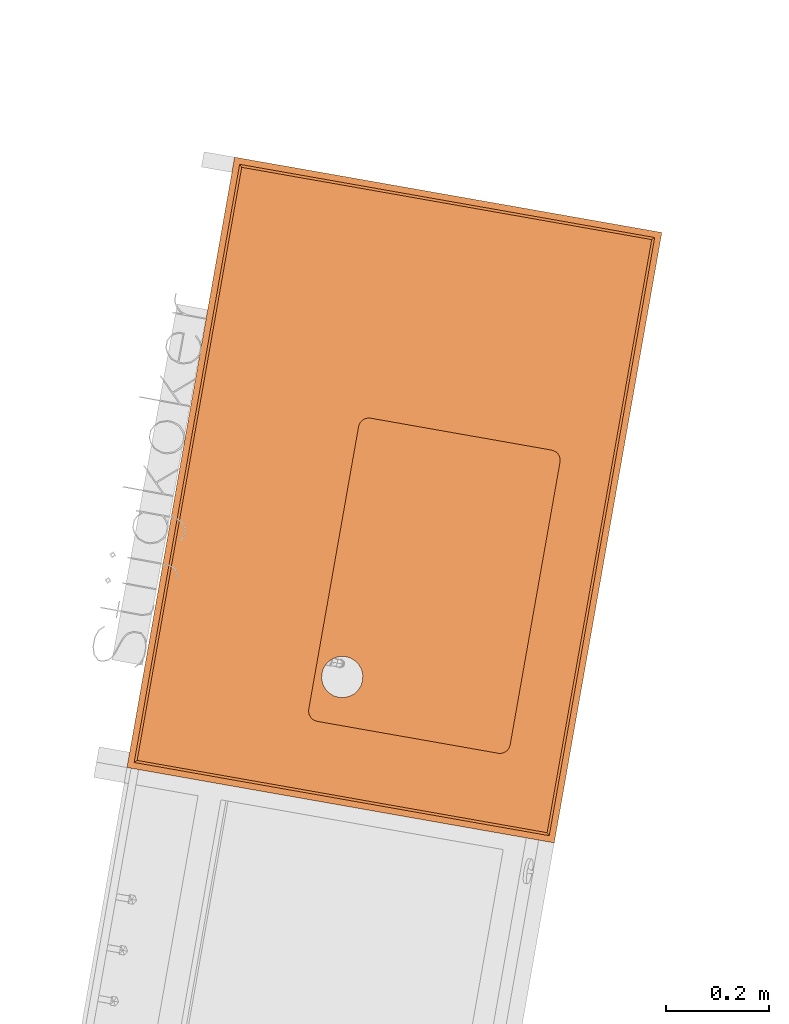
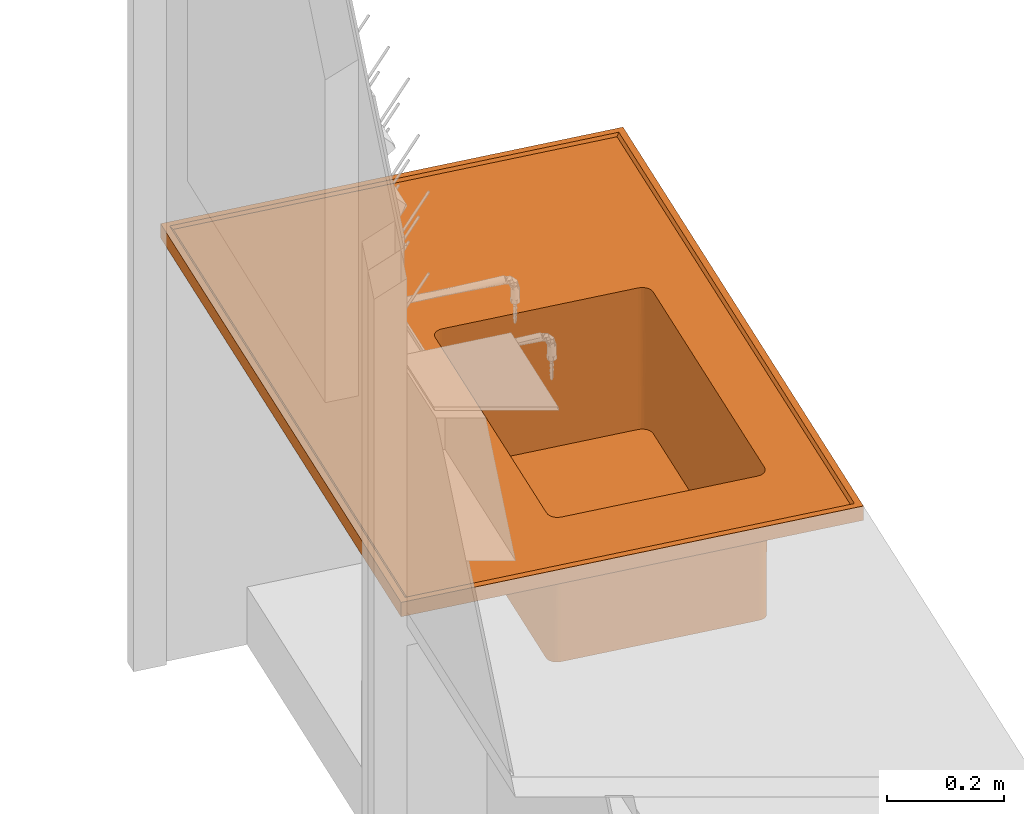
# One storey, part 16 of 43: 1 proxy.
"""IFC2X3 building model written with IfcOpenShell, lengths in metres."""

import ifcopenshell
import ifcopenshell.guid

model = None  # the IFC model being written
_history = None  # IfcOwnerHistory: only IFC2X3 demands one
_inside = {}  # id of a spatial element -> (the spatial element, [elements in it])
_under = {}  # id of a project, library or spatial element -> (it, [spatial elements below it])
_declared = {}  # id of a project -> (the project, [libraries it declares])
_typed = {}  # id of a type object -> (the type object, [elements of that type])
_made_of = {}  # id of a material, layer set ... -> (it, [elements and type objects made of it])


def new_model(schema):
    """Start an empty IFC model of exactly this schema.

    Asked for "IFC4X3", IfcOpenShell would pick the latest addendum, in which some entities
    have other attributes; the version numbers below select the first issue.
    IFC2X3 requires an IfcOwnerHistory on every rooted entity: one is made here for all.
    """
    global model, _history
    if schema == "IFC4X3":
        model = ifcopenshell.file(schema_version=(4, 3, 0, 0))
    else:
        model = ifcopenshell.file(schema=schema)
    _inside.clear()
    _under.clear()
    _declared.clear()
    _typed.clear()
    _made_of.clear()
    _history = None
    if model.schema == "IFC2X3":
        org = make("IfcOrganization", Name="unknown")
        user = make(
            "IfcPersonAndOrganization",
            ThePerson=make("IfcPerson", FamilyName="unknown"),
            TheOrganization=org,
        )
        app = make(
            "IfcApplication",
            ApplicationDeveloper=org,
            Version="unknown",
            ApplicationFullName="unknown",
            ApplicationIdentifier="unknown",
        )
        _history = make(
            "IfcOwnerHistory",
            OwningUser=user,
            OwningApplication=app,
            ChangeAction="ADDED",
            CreationDate=0,
        )
    return model


def make(cls, **values):
    """One entity of the class cls with the attributes given. An attribute that is None is left unset."""
    return model.create_entity(
        cls, **{name: value for name, value in values.items() if value is not None}
    )


def entity(cls, *values):
    """Any entity or typed value of the class cls, its attributes in the order of the schema. None: left unset."""
    e = model.create_entity(cls)
    for i, value in enumerate(values):
        if value is not None:
            e[i] = value
    return e


def rooted(cls, **values):
    """An entity with a GlobalId (a new one), such as an element, a storey or a relation."""
    return make(cls, GlobalId=ifcopenshell.guid.new(), OwnerHistory=_history, **values)


def si_unit(unit_type, name, prefix=None):
    """IfcSIUnit, for example si_unit("LENGTHUNIT", "METRE", prefix="MILLI")."""
    return make("IfcSIUnit", UnitType=unit_type, Prefix=prefix, Name=name)


def converted_unit(unit_type, name, factor, base, dimensions=None, offset=None):
    """IfcConversionBasedUnit, such as the inch: factor (a typed value) times the base unit."""
    return make(
        "IfcConversionBasedUnit"
        if offset is None
        else "IfcConversionBasedUnitWithOffset",
        ConversionOffset=offset,
        Dimensions=None
        if dimensions is None
        else entity("IfcDimensionalExponents", *dimensions),
        UnitType=unit_type,
        Name=name,
        ConversionFactor=make(
            "IfcMeasureWithUnit", ValueComponent=factor, UnitComponent=base
        ),
    )


def derived_unit(unit_type, elements):
    """IfcDerivedUnit: a product of units, each with its exponent."""
    return make(
        "IfcDerivedUnit",
        Elements=[
            make("IfcDerivedUnitElement", Unit=unit, Exponent=power)
            for unit, power in elements
        ],
        UnitType=unit_type,
    )


def assignment(units):
    """IfcUnitAssignment: the units of a project."""
    return None if units is None else make("IfcUnitAssignment", Units=units)


def point(xyz):
    """IfcCartesianPoint."""
    return None if xyz is None else make("IfcCartesianPoint", Coordinates=xyz)


def direction(xyz):
    """IfcDirection."""
    return None if xyz is None else make("IfcDirection", DirectionRatios=xyz)


def frame(location, z_axis=None, x_axis=None):
    """IfcAxis2Placement3D, a coordinate frame: its origin and axes. An axis left out is left unset."""
    return make(
        "IfcAxis2Placement3D",
        Location=point(location),
        Axis=direction(z_axis),
        RefDirection=direction(x_axis),
    )


def origin():
    """The frame at (0, 0, 0) with its axes left unset."""
    return frame((0.0, 0.0, 0.0))


def place(relative_to, where):
    """IfcLocalPlacement: puts the frame where relative to a parent placement (None: the world)."""
    return make(
        "IfcLocalPlacement", PlacementRelTo=relative_to, RelativePlacement=where
    )


def context(
    kind, dimensions, precision=None, world=None, true_north=None, identifier=None
):
    """IfcGeometricRepresentationContext, for example the 3D "Model" context."""
    return make(
        "IfcGeometricRepresentationContext",
        ContextIdentifier=identifier,
        ContextType=kind,
        CoordinateSpaceDimension=dimensions,
        Precision=precision,
        WorldCoordinateSystem=world,
        TrueNorth=true_north,
    )


def subcontext(parent, identifier, kind, view, scale=None):
    """IfcGeometricRepresentationSubContext, for example "Body" below "Model"."""
    return make(
        "IfcGeometricRepresentationSubContext",
        ContextIdentifier=identifier,
        ContextType=kind,
        ParentContext=parent,
        TargetScale=scale,
        TargetView=view,
    )


def project(units=None, contexts=None):
    """IfcProject with its units and contexts."""
    return rooted(
        "IfcProject",
        Name="project",
        RepresentationContexts=contexts,
        UnitsInContext=assignment(units),
    )


def spatial(cls, under=None, at=None, **own):
    """A site, building, storey or space (cls), placed at a placement, below another one or the project."""
    s = rooted(cls, ObjectPlacement=at, **own)
    if under is not None:
        _under.setdefault(under.id(), (under, []))[1].append(s)
    return s


def faces_of(points, faces, orient=None, outer=None):
    """IfcFace entities. A face is a list of loops; a loop is a list of indices into points, from 0.

    orient and outer hold one flag for each loop. By default every Orientation is true, the
    first loop of a face is its IfcFaceOuterBound and the others are IfcFaceBound.
    """
    made = []
    for i, loops in enumerate(faces):
        bounds = []
        for j, loop in enumerate(loops):
            is_outer = j == 0 if outer is None else outer[i][j]
            bounds.append(
                make(
                    "IfcFaceOuterBound" if is_outer else "IfcFaceBound",
                    Bound=make("IfcPolyLoop", Polygon=[points[k] for k in loop]),
                    Orientation=True if orient is None else orient[i][j],
                )
            )
        made.append(make("IfcFace", Bounds=bounds))
    return made


def faceted_brep(points, faces, orient=None, outer=None, voids=None):
    """IfcFacetedBrep: a solid bounded by flat faces; with voids (closed shells), ...WithVoids."""
    shared = [point(p) for p in points]
    hull = make("IfcClosedShell", CfsFaces=faces_of(shared, faces, orient, outer))
    if voids is None:
        return make("IfcFacetedBrep", Outer=hull)
    return make(
        "IfcFacetedBrepWithVoids",
        Outer=hull,
        Voids=[
            make(cls, CfsFaces=faces_of(shared, fs, o, b)) for cls, fs, o, b in voids
        ],
    )


def shape(context_of_items, identifier, shape_type, items):
    """IfcShapeRepresentation: the items that make up one representation, for example the "Body"."""
    return make(
        "IfcShapeRepresentation",
        ContextOfItems=context_of_items,
        RepresentationIdentifier=identifier,
        RepresentationType=shape_type,
        Items=items,
    )


def source(mapping_origin, context_of_items, identifier, shape_type, items):
    """IfcRepresentationMap: a shape defined once, which mapped items show again and again."""
    return make(
        "IfcRepresentationMap",
        MappingOrigin=mapping_origin,
        MappedRepresentation=shape(context_of_items, identifier, shape_type, items),
    )


def transform(
    local_origin,
    x_axis=None,
    y_axis=None,
    z_axis=None,
    scale=None,
    scale2=None,
    scale3=None,
    uniform=True,
):
    """IfcCartesianTransformationOperator3D, or its non-uniform kind. x_axis, y_axis, z_axis: its Axis1, 2, 3."""
    if uniform:
        return make(
            "IfcCartesianTransformationOperator3D",
            Axis1=direction(x_axis),
            Axis2=direction(y_axis),
            LocalOrigin=point(local_origin),
            Scale=scale,
            Axis3=direction(z_axis),
        )
    return make(
        "IfcCartesianTransformationOperator3DnonUniform",
        Axis1=direction(x_axis),
        Axis2=direction(y_axis),
        LocalOrigin=point(local_origin),
        Scale=scale,
        Axis3=direction(z_axis),
        Scale2=scale2,
        Scale3=scale3,
    )


def mapped(mapping_source, mapping_target):
    """IfcMappedItem: shows the shape of a source again, moved by a transform."""
    return make(
        "IfcMappedItem", MappingSource=mapping_source, MappingTarget=mapping_target
    )


def material(Name=None, Category=None):
    """IfcMaterial."""
    return make("IfcMaterial", Name=Name, Category=Category)


def made_of(thing, what):
    """Note that an element or type object is made of a material, layer set ...; save() writes the relation."""
    if what is not None:
        _made_of.setdefault(what.id(), (what, []))[1].append(thing)
    return thing


def type_object(cls, material=None, **own):
    """A type object (cls), such as IfcWallType, which elements share."""
    return made_of(rooted(cls, **own), material)


def type_shapes(of_type, sources):
    """Give a type object the sources (RepresentationMaps) that its elements show as mapped items."""
    of_type.RepresentationMaps = sources


def element(
    cls,
    number,
    at=None,
    inside=None,
    cuts=None,
    type_object=None,
    material=None,
    context=None,
    identifier="Body",
    shape_type=None,
    held_by="IfcProductDefinitionShape",
    body=None,
    shapes=None,
    **own,
):
    """One element of the class cls, such as IfcWall. Its Tag is "e" and its number.

    at: its placement. inside: the storey or other place that contains it. cuts: it is an
    opening in that element (IfcRelVoidsElement). A single representation is given by context,
    identifier, shape_type and body (its items); several are given by shapes. held_by: the class
    of the entity that holds the representations. save() writes the other relations.
    """
    e = rooted(cls, Tag="e%d" % number, ObjectPlacement=at, **own)
    if body is not None:
        shapes = [shape(context, identifier, shape_type, body)]
    if shapes is not None:
        e.Representation = make(held_by, Representations=shapes)
    if inside is not None:
        _inside.setdefault(inside.id(), (inside, []))[1].append(e)
    if cuts is not None:
        rooted(
            "IfcRelVoidsElement", RelatingBuildingElement=cuts, RelatedOpeningElement=e
        )
    if type_object is not None:
        _typed.setdefault(type_object.id(), (type_object, []))[1].append(e)
    return made_of(e, material)


def aggregate(whole, parts):
    """IfcRelAggregates: a whole, such as a stair, and the parts it consists of."""
    return rooted("IfcRelAggregates", RelatingObject=whole, RelatedObjects=parts)


def save(model, path):
    """Write the relations noted so far, then the file.

    IfcRelAggregates (storeys below a building ...), IfcRelContainedInSpatialStructure (elements
    in a storey), IfcRelDefinesByType, IfcRelAssociatesMaterial and IfcRelDeclares: one each for
    every whole, place, type object, material and project.
    """
    for whole, parts in _under.values():
        aggregate(whole, parts)
    for where, things in _inside.values():
        rooted(
            "IfcRelContainedInSpatialStructure",
            RelatedElements=things,
            RelatingStructure=where,
        )
    for kind, things in _typed.values():
        rooted("IfcRelDefinesByType", RelatedObjects=things, RelatingType=kind)
    for what, things in _made_of.values():
        rooted("IfcRelAssociatesMaterial", RelatedObjects=things, RelatingMaterial=what)
    for by, libraries in _declared.values():
        rooted("IfcRelDeclares", RelatingContext=by, RelatedDefinitions=libraries)
    model.write(path)


model = new_model("IFC2X3")

# Units and contexts
model_context = context("Model", 3, precision=1e-05, world=origin(), true_north=direction((6.12303176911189e-17, 1.0)))
body_context = subcontext(model_context, "Body", "Model", "MODEL_VIEW")
ifc_project = project(units=[si_unit("LENGTHUNIT", "METRE"), si_unit("AREAUNIT", "SQUARE_METRE"), si_unit("VOLUMEUNIT", "CUBIC_METRE"), converted_unit("PLANEANGLEUNIT", "DEGREE", entity("IfcRatioMeasure", 0.0174532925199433), si_unit("PLANEANGLEUNIT", "RADIAN"), dimensions=[0, 0, 0, 0, 0, 0, 0]), si_unit("MASSUNIT", "GRAM", prefix="KILO"), derived_unit("MASSDENSITYUNIT", [(si_unit("MASSUNIT", "GRAM", prefix="KILO"), 1), (si_unit("LENGTHUNIT", "METRE"), -3)]), derived_unit("MOMENTOFINERTIAUNIT", [(si_unit("LENGTHUNIT", "METRE"), 4)]), si_unit("TIMEUNIT", "SECOND"), si_unit("FREQUENCYUNIT", "HERTZ"), si_unit("THERMODYNAMICTEMPERATUREUNIT", "DEGREE_CELSIUS"), derived_unit("THERMALTRANSMITTANCEUNIT", [(si_unit("MASSUNIT", "GRAM", prefix="KILO"), 1), (si_unit("THERMODYNAMICTEMPERATUREUNIT", "KELVIN"), -1), (si_unit("TIMEUNIT", "SECOND"), -3)]), derived_unit("VOLUMETRICFLOWRATEUNIT", [(si_unit("LENGTHUNIT", "METRE"), 3), (si_unit("TIMEUNIT", "SECOND"), -1)]), si_unit("ELECTRICCURRENTUNIT", "AMPERE"), si_unit("ELECTRICVOLTAGEUNIT", "VOLT"), si_unit("POWERUNIT", "WATT"), si_unit("FORCEUNIT", "NEWTON", prefix="KILO"), si_unit("ILLUMINANCEUNIT", "LUX"), si_unit("LUMINOUSFLUXUNIT", "LUMEN"), si_unit("LUMINOUSINTENSITYUNIT", "CANDELA"), derived_unit("USERDEFINED", [(si_unit("MASSUNIT", "GRAM", prefix="KILO"), -1), (si_unit("LENGTHUNIT", "METRE"), -2), (si_unit("TIMEUNIT", "SECOND"), 3), (si_unit("LUMINOUSFLUXUNIT", "LUMEN"), 1)]), derived_unit("LINEARVELOCITYUNIT", [(si_unit("LENGTHUNIT", "METRE"), 1), (si_unit("TIMEUNIT", "SECOND"), -1)]), si_unit("PRESSUREUNIT", "PASCAL"), derived_unit("USERDEFINED", [(si_unit("LENGTHUNIT", "METRE"), -2), (si_unit("MASSUNIT", "GRAM", prefix="KILO"), 1), (si_unit("TIMEUNIT", "SECOND"), -2)]), derived_unit("LINEARFORCEUNIT", [(si_unit("MASSUNIT", "GRAM", prefix="KILO"), 1), (si_unit("LENGTHUNIT", "METRE"), 1), (si_unit("TIMEUNIT", "SECOND"), -2), (si_unit("LENGTHUNIT", "METRE"), -1)]), derived_unit("PLANARFORCEUNIT", [(si_unit("MASSUNIT", "GRAM", prefix="KILO"), 1), (si_unit("LENGTHUNIT", "METRE"), 1), (si_unit("TIMEUNIT", "SECOND"), -2), (si_unit("LENGTHUNIT", "METRE"), -2)])], contexts=[model_context])

# Site, building, storey
site_placement = place(None, origin())
site = spatial("IfcSite", under=ifc_project, at=site_placement, Name="Default", CompositionType="ELEMENT")
building_placement = place(site_placement, origin())
building = spatial("IfcBuilding", under=site, at=building_placement, CompositionType="ELEMENT")
storey_placement = place(building_placement, frame((0.0, 0.0, 3.0)))
storey = spatial("IfcBuildingStorey", under=building, at=storey_placement, Name="01 OG", CompositionType="ELEMENT", Elevation=3.0)

# Proxy
ifc_material = material(Name="Steinzeug")
building_element_proxy_type = type_object("IfcBuildingElementProxyType", Name="dh_Tischplatte Steinzeug Becken:dh_Tischplatte Steinzeug Becken", PredefinedType="NOTDEFINED", material=ifc_material)
shared_shape = source(origin(), body_context, "Body", "Brep", [
    faceted_brep([(0.150681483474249, 0.500176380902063, 0.0), (0.155857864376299, 0.509142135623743, 0.0), (0.16000000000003, 0.512320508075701, 0.0), (0.152679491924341, 0.505000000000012, 0.0), (0.15000000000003, 0.495000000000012, 0.0), (0.16482361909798, 0.514318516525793, 0.0), (0.17000000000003, 0.515000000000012, 0.0), (0.206362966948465, 0.470352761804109, 0.0), (0.210358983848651, 0.480000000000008, 0.0), (0.216715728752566, 0.48828427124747, 0.0), (0.225000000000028, 0.494641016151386, 0.0), (0.234647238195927, 0.498637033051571, 0.0), (0.245000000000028, 0.500000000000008, 0.0), (0.255352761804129, 0.498637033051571, 0.0), (0.730000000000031, 0.515000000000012, 0.0), (0.265000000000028, 0.494641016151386, 0.0), (0.27328427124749, 0.48828427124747, 0.0), (0.279641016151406, 0.480000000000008, 0.0), (0.283637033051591, 0.470352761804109, 0.0), (0.285000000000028, 0.460000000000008, 0.0), (0.283637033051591, 0.449647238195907, 0.0), (0.279641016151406, 0.440000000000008, 0.0), (0.73000000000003, 0.115000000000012, 0.0), (0.75000000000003, 0.135000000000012, 0.0), (0.75000000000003, 0.495000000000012, 0.0), (0.735176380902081, 0.514318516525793, 0.0), (0.740000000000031, 0.512320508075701, 0.0), (0.749318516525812, 0.500176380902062, 0.0), (0.744142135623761, 0.509142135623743, 0.0), (0.747320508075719, 0.505000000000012, 0.0), (0.73517638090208, 0.115681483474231, 0.0), (0.74000000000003, 0.117679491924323, 0.0), (0.749318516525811, 0.129823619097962, 0.0), (0.744142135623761, 0.120857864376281, 0.0), (0.747320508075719, 0.125000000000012, 0.0), (0.27328427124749, 0.431715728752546, 0.0), (0.170000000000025, 0.115000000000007, 0.0), (0.265000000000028, 0.425358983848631, 0.0), (0.255352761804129, 0.421362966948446, 0.0), (0.150000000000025, 0.135000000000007, 0.0), (0.164823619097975, 0.115681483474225, 0.0), (0.160000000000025, 0.117679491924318, 0.0), (0.150681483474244, 0.129823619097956, 0.0), (0.155857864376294, 0.120857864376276, 0.0), (0.152679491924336, 0.125000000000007, 0.0), (0.210358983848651, 0.440000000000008, 0.0), (0.216715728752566, 0.431715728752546, 0.0), (0.225000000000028, 0.425358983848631, 0.0), (0.234647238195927, 0.421362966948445, 0.0), (0.245000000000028, 0.420000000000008, 0.0), (0.205000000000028, 0.460000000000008, 0.0), (0.206362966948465, 0.449647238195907, 0.0), (0.74532050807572, 0.503000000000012, 0.3), (0.74732050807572, 0.505000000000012, 0.3), (0.742142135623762, 0.507142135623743, 0.3), (0.749318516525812, 0.500176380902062, 0.3), (0.747318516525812, 0.498176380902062, 0.3), (0.750000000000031, 0.495000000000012, 0.3), (0.748000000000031, 0.493000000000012, 0.3), (0.748000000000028, 0.137000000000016, 0.3), (0.750000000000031, 0.135000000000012, 0.3), (0.747318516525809, 0.131823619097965, 0.3), (0.749318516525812, 0.129823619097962, 0.3), (0.745320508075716, 0.127000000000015, 0.3), (0.74732050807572, 0.125000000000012, 0.3), (0.742142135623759, 0.122857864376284, 0.3), (0.744142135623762, 0.120857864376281, 0.3), (0.740000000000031, 0.117679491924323, 0.3), (0.738000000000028, 0.119679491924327, 0.3), (0.735176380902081, 0.115681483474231, 0.3), (0.733176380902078, 0.117681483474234, 0.3), (0.730000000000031, 0.115000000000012, 0.3), (0.728000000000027, 0.117000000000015, 0.3), (0.172000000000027, 0.117000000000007, 0.300000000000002), (0.170000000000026, 0.115000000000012, 0.300000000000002), (0.166823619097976, 0.117681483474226, 0.300000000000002), (0.164823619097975, 0.115681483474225, 0.300000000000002), (0.162000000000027, 0.119679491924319, 0.300000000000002), (0.160000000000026, 0.117679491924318, 0.300000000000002), (0.157857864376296, 0.122857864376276, 0.300000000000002), (0.155857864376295, 0.120857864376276, 0.300000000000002), (0.152679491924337, 0.125000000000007, 0.300000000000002), (0.154679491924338, 0.127000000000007, 0.300000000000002), (0.150681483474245, 0.129823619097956, 0.300000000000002), (0.152681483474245, 0.131823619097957, 0.300000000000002), (0.150000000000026, 0.135000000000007, 0.300000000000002), (0.152000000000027, 0.137000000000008, 0.300000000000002), (0.150000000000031, 0.495000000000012, 0.300000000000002), (0.152000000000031, 0.493000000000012, 0.300000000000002), (0.15268148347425, 0.498176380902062, 0.300000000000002), (0.15068148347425, 0.500176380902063, 0.300000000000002), (0.154679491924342, 0.503000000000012, 0.300000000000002), (0.152679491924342, 0.505000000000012, 0.300000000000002), (0.1578578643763, 0.507142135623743, 0.300000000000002), (0.1558578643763, 0.509142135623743, 0.300000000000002), (0.160000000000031, 0.512320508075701, 0.300000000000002), (0.162000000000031, 0.510320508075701, 0.300000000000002), (0.164823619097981, 0.514318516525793, 0.300000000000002), (0.166823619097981, 0.512318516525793, 0.300000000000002), (0.170000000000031, 0.515000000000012, 0.300000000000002), (0.172000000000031, 0.513000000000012, 0.300000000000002), (0.730000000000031, 0.515000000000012, 0.3), (0.728000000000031, 0.513000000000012, 0.3), (0.733176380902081, 0.512318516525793, 0.3), (0.735176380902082, 0.514318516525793, 0.3), (0.738000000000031, 0.510320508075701, 0.3), (0.740000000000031, 0.512320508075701, 0.3), (0.744142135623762, 0.509142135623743, 0.3), (0.730000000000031, 0.515000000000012, 0.15000042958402), (0.170000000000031, 0.515000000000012, 0.150000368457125), (0.150000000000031, 0.495000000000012, 0.150000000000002), (0.150000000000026, 0.135000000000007, 0.150000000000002), (0.170000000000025, 0.115000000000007, 0.150000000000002), (0.73000000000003, 0.115000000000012, 0.15), (0.75000000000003, 0.135000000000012, 0.15), (0.750000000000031, 0.495000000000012, 0.15), (0.16200000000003, 0.510320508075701, 0.00500000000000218), (0.157857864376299, 0.507142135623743, 0.00500000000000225), (0.152681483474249, 0.498176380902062, 0.00500000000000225), (0.15200000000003, 0.493000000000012, 0.00500000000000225), (0.16682361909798, 0.512318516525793, 0.00500000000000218), (0.154679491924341, 0.503000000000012, 0.00500000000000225), (0.17200000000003, 0.513000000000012, 0.00500000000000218), (0.206362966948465, 0.470352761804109, 0.00500000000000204), (0.205000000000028, 0.460000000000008, 0.00500000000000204), (0.206362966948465, 0.449647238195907, 0.00500000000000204), (0.210358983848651, 0.440000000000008, 0.00500000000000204), (0.152000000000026, 0.137000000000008, 0.00500000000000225), (0.216715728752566, 0.431715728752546, 0.00500000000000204), (0.225000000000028, 0.425358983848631, 0.00500000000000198), (0.234647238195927, 0.421362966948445, 0.00500000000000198), (0.245000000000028, 0.420000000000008, 0.00500000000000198), (0.255352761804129, 0.421362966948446, 0.00500000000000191), (0.172000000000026, 0.117000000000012, 0.00500000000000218), (0.166823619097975, 0.117681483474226, 0.00500000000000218), (0.162000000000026, 0.119679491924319, 0.00500000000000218), (0.152681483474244, 0.131823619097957, 0.00500000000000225), (0.157857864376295, 0.122857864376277, 0.00500000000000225), (0.154679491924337, 0.127000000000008, 0.00500000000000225), (0.265000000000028, 0.425358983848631, 0.00500000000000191), (0.27328427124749, 0.431715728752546, 0.00500000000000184), (0.728000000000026, 0.117000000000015, 0.00500000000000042), (0.279641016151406, 0.440000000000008, 0.00500000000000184), (0.72800000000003, 0.513000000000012, 0.00500000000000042), (0.74800000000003, 0.137000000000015, 0.00500000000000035), (0.733176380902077, 0.117681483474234, 0.00500000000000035), (0.738000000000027, 0.119679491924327, 0.00500000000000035), (0.747318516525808, 0.131823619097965, 0.00500000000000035), (0.742142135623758, 0.122857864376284, 0.00500000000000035), (0.745320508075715, 0.127000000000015, 0.00500000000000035), (0.74800000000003, 0.493000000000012, 0.00500000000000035), (0.733176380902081, 0.512318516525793, 0.00500000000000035), (0.73800000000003, 0.510320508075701, 0.00500000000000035), (0.747318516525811, 0.498176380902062, 0.00500000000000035), (0.742142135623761, 0.507142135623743, 0.00500000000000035), (0.745320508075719, 0.503000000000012, 0.00500000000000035), (0.255352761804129, 0.498637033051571, 0.00500000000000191), (0.265000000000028, 0.494641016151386, 0.00500000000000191), (0.27328427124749, 0.48828427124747, 0.00500000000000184), (0.279641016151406, 0.480000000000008, 0.00500000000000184), (0.283637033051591, 0.470352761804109, 0.00500000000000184), (0.285000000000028, 0.460000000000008, 0.00500000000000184), (0.283637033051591, 0.449647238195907, 0.00500000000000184), (0.210358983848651, 0.480000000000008, 0.00500000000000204), (0.216715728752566, 0.48828427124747, 0.00500000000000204), (0.225000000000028, 0.494641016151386, 0.00500000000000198), (0.234647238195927, 0.498637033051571, 0.00500000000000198), (0.245000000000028, 0.500000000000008, 0.00500000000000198), (0.172000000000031, 0.513000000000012, 0.152499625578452), (0.728000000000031, 0.513000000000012, 0.1525), (0.152000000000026, 0.137000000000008, 0.152500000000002), (0.152000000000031, 0.493000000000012, 0.152500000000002), (0.728000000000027, 0.117000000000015, 0.1525), (0.172000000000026, 0.117000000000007, 0.152500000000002), (0.748000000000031, 0.493000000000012, 0.1525), (0.748000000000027, 0.137000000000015, 0.1525), (0.164346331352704, 0.511477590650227, 0.152499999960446), (0.153522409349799, 0.500653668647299, 0.152499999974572), (0.152384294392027, 0.496901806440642, 0.187662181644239), (0.168098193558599, 0.512615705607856, 0.117337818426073), (0.159824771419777, 0.508867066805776, 0.136631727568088), (0.156132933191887, 0.505175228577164, 0.168368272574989), (0.153522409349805, 0.129346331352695, 0.152499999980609), (0.164346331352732, 0.118522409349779, 0.152499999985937), (0.168098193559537, 0.117384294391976, 0.187662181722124), (0.15238429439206, 0.133098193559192, 0.117337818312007), (0.156132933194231, 0.124824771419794, 0.136631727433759), (0.15982477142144, 0.121132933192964, 0.168368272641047), (0.735653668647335, 0.118522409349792, 0.152499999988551), (0.746477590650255, 0.129346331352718, 0.1524999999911), (0.747615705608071, 0.133098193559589, 0.187662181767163), (0.731901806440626, 0.117384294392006, 0.117337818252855), (0.740175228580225, 0.121132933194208, 0.136631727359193), (0.7438670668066, 0.124824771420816, 0.168368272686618), (0.746477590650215, 0.500653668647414, 0.152499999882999), (0.735653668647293, 0.511477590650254, 0.152499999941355), (0.731901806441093, 0.512615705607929, 0.187662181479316), (0.747615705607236, 0.496901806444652, 0.117337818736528), (0.743867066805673, 0.505175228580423, 0.136631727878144), (0.740175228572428, 0.508867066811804, 0.168368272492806), (0.162346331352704, 0.513477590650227, 0.149999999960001), (0.150384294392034, 0.498901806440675, 0.187055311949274), (0.151522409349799, 0.502653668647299, 0.14999999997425), (0.166098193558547, 0.514615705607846, 0.112944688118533), (0.157824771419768, 0.510867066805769, 0.13191703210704), (0.154132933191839, 0.507175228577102, 0.16808296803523), (0.151522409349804, 0.127346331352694, 0.149999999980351), (0.166098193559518, 0.115384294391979, 0.187055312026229), (0.162346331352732, 0.116522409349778, 0.149999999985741), (0.150384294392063, 0.131098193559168, 0.112944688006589), (0.154132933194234, 0.122824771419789, 0.13191703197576), (0.157824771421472, 0.119132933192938, 0.16808296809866), (0.737653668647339, 0.116522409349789, 0.149999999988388), (0.749615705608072, 0.131098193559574, 0.187055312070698), (0.748477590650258, 0.127346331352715, 0.14999999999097), (0.733901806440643, 0.115384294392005, 0.112944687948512), (0.742175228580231, 0.119132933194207, 0.131917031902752), (0.745867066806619, 0.122824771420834, 0.168082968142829), (0.748477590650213, 0.502653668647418, 0.149999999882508), (0.733901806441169, 0.514615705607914, 0.187055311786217), (0.737653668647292, 0.513477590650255, 0.149999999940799), (0.749615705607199, 0.498901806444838, 0.112944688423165), (0.745867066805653, 0.507175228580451, 0.131917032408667), (0.742175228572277, 0.51086706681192, 0.168082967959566)], [[[0, 1, 2]], [[0, 3, 1]], [[0, 2, 4]], [[4, 2, 5]], [[5, 6, 4]], [[6, 7, 4]], [[8, 7, 6]], [[8, 6, 9]], [[10, 9, 6]], [[6, 11, 10]], [[6, 12, 11]], [[12, 6, 13]], [[13, 6, 14]], [[15, 13, 14]], [[16, 15, 14]], [[16, 14, 17]], [[18, 17, 14]], [[19, 18, 14]], [[19, 14, 20]], [[20, 14, 21]], [[22, 21, 14]], [[23, 22, 14]], [[23, 14, 24]], [[24, 14, 25]], [[24, 25, 26]], [[24, 26, 27]], [[27, 26, 28]], [[28, 29, 27]], [[22, 23, 30]], [[31, 30, 23]], [[32, 31, 23]], [[33, 31, 32]], [[33, 32, 34]], [[35, 21, 22]], [[22, 36, 35]], [[35, 36, 37]], [[37, 36, 38]], [[39, 38, 36]], [[39, 36, 40]], [[41, 39, 40]], [[41, 42, 39]], [[42, 41, 43]], [[42, 43, 44]], [[39, 4, 45]], [[46, 39, 45]], [[39, 46, 47]], [[47, 48, 39]], [[49, 39, 48]], [[38, 39, 49]], [[4, 7, 50]], [[4, 50, 51]], [[4, 51, 45]], [[52, 53, 54]], [[53, 52, 55]], [[55, 52, 56]], [[57, 55, 56]], [[56, 58, 57]], [[57, 58, 59]], [[59, 60, 57]], [[60, 59, 61]], [[60, 61, 62]], [[62, 61, 63]], [[64, 62, 63]], [[65, 64, 63]], [[64, 65, 66]], [[65, 67, 66]], [[65, 68, 67]], [[67, 68, 69]], [[68, 70, 69]], [[71, 69, 70]], [[72, 71, 70]], [[71, 72, 73]], [[73, 74, 71]], [[73, 75, 74]], [[74, 75, 76]], [[75, 77, 76]], [[77, 78, 76]], [[77, 79, 78]], [[79, 80, 78]], [[79, 81, 80]], [[81, 79, 82]], [[83, 81, 82]], [[82, 84, 83]], [[84, 85, 83]], [[84, 86, 85]], [[85, 86, 87]], [[88, 87, 86]], [[88, 89, 87]], [[90, 87, 89]], [[89, 91, 90]], [[91, 92, 90]], [[92, 91, 93]], [[92, 93, 94]], [[93, 95, 94]], [[95, 93, 96]], [[97, 95, 96]], [[98, 97, 96]], [[98, 99, 97]], [[98, 100, 99]], [[99, 100, 101]], [[102, 101, 100]], [[103, 101, 102]], [[103, 104, 101]], [[104, 103, 105]], [[54, 106, 105]], [[105, 106, 104]], [[54, 53, 107]], [[106, 54, 107]], [[99, 101, 108, 14, 6, 109]], [[87, 110, 4, 39, 111, 85]], [[74, 112, 36, 22, 113, 71]], [[60, 114, 23, 24, 115, 57]], [[116, 117, 118]], [[119, 116, 118]], [[120, 116, 119]], [[117, 121, 118]], [[119, 122, 120]], [[119, 123, 122]], [[124, 123, 119]], [[125, 124, 119]], [[126, 125, 119]], [[126, 119, 127]], [[126, 127, 128]], [[129, 128, 127]], [[127, 130, 129]], [[130, 127, 131]], [[131, 127, 132]], [[133, 132, 127]], [[134, 133, 127]], [[134, 127, 135]], [[127, 136, 135]], [[137, 135, 136]], [[138, 137, 136]], [[132, 133, 139]], [[139, 133, 140]], [[140, 133, 141]], [[141, 142, 140]], [[143, 142, 141]], [[143, 141, 144]], [[145, 144, 141]], [[144, 145, 146]], [[144, 146, 147]], [[147, 146, 148]], [[149, 147, 148]], [[150, 143, 144]], [[151, 143, 150]], [[152, 151, 150]], [[153, 152, 150]], [[154, 152, 153]], [[153, 155, 154]], [[143, 122, 156]], [[143, 156, 157]], [[143, 157, 158]], [[159, 143, 158]], [[143, 159, 160]], [[143, 160, 161]], [[162, 143, 161]], [[142, 143, 162]], [[122, 123, 163]], [[164, 122, 163]], [[122, 164, 165]], [[165, 166, 122]], [[166, 167, 122]], [[156, 122, 167]], [[100, 168, 122, 143, 169, 102]], [[86, 170, 127, 119, 171, 88]], [[72, 172, 141, 133, 173, 73]], [[58, 174, 150, 144, 175, 59]], [[19, 161, 160, 18]], [[18, 160, 159, 17]], [[15, 16, 158, 157]], [[158, 16, 17, 159]], [[13, 15, 157, 156]], [[13, 156, 167, 12]], [[12, 167, 166, 11]], [[11, 166, 165, 10]], [[8, 9, 164, 163]], [[164, 9, 10, 165]], [[7, 8, 163, 123]], [[7, 123, 124, 50]], [[50, 124, 125, 51]], [[51, 125, 126, 45]], [[47, 46, 128, 129]], [[128, 46, 45, 126]], [[48, 47, 129, 130]], [[48, 130, 131, 49]], [[49, 131, 132, 38]], [[38, 132, 139, 37]], [[21, 35, 140, 142]], [[140, 35, 37, 139]], [[20, 21, 142, 162]], [[20, 162, 161, 19]], [[116, 120, 176]], [[177, 178, 118]], [[168, 179, 122]], [[116, 176, 180]], [[180, 117, 116]], [[176, 120, 179]], [[89, 88, 178]], [[100, 98, 168]], [[176, 98, 96]], [[122, 179, 120]], [[180, 176, 96]], [[171, 178, 88]], [[118, 121, 177]], [[117, 180, 181]], [[181, 180, 93]], [[171, 119, 118]], [[181, 121, 117]], [[91, 177, 181]], [[98, 179, 168]], [[91, 89, 177]], [[89, 178, 177]], [[93, 180, 96]], [[118, 178, 171]], [[181, 177, 121]], [[176, 179, 98]], [[93, 91, 181]], [[138, 136, 182]], [[183, 184, 134]], [[170, 185, 127]], [[138, 182, 186]], [[186, 137, 138]], [[182, 136, 185]], [[75, 73, 184]], [[86, 84, 170]], [[182, 84, 82]], [[127, 185, 136]], [[186, 182, 82]], [[173, 184, 73]], [[134, 135, 183]], [[137, 186, 187]], [[187, 186, 79]], [[173, 133, 134]], [[187, 135, 137]], [[77, 183, 187]], [[84, 185, 170]], [[77, 75, 183]], [[75, 184, 183]], [[79, 186, 82]], [[134, 184, 173]], [[187, 183, 135]], [[182, 185, 84]], [[79, 77, 187]], [[146, 145, 188]], [[189, 190, 147]], [[172, 191, 141]], [[146, 188, 192]], [[192, 148, 146]], [[188, 145, 191]], [[61, 59, 190]], [[72, 70, 172]], [[188, 70, 68]], [[141, 191, 145]], [[192, 188, 68]], [[175, 190, 59]], [[147, 149, 189]], [[148, 192, 193]], [[193, 192, 65]], [[175, 144, 147]], [[193, 149, 148]], [[63, 189, 193]], [[70, 191, 172]], [[63, 61, 189]], [[61, 190, 189]], [[65, 192, 68]], [[147, 190, 175]], [[193, 189, 149]], [[188, 191, 70]], [[65, 63, 193]], [[155, 153, 194]], [[195, 196, 151]], [[174, 197, 150]], [[155, 194, 198]], [[198, 154, 155]], [[194, 153, 197]], [[103, 102, 196]], [[58, 56, 174]], [[194, 56, 52]], [[150, 197, 153]], [[198, 194, 52]], [[169, 196, 102]], [[151, 152, 195]], [[154, 198, 199]], [[199, 198, 54]], [[169, 143, 151]], [[199, 152, 154]], [[105, 195, 199]], [[56, 197, 174]], [[105, 103, 195]], [[103, 196, 195]], [[54, 198, 52]], [[151, 196, 169]], [[199, 195, 152]], [[194, 197, 56]], [[54, 105, 199]], [[200, 5, 2]], [[0, 201, 202]], [[6, 203, 109]], [[204, 200, 2]], [[2, 1, 204]], [[203, 5, 200]], [[201, 87, 90]], [[109, 97, 99]], [[95, 97, 200]], [[5, 203, 6]], [[95, 200, 204]], [[87, 201, 110]], [[202, 3, 0]], [[205, 204, 1]], [[94, 204, 205]], [[0, 4, 110]], [[1, 3, 205]], [[205, 202, 92]], [[109, 203, 97]], [[202, 90, 92]], [[202, 201, 90]], [[95, 204, 94]], [[110, 201, 0]], [[3, 202, 205]], [[97, 203, 200]], [[205, 92, 94]], [[206, 42, 44]], [[40, 207, 208]], [[39, 209, 111]], [[210, 206, 44]], [[44, 43, 210]], [[209, 42, 206]], [[207, 74, 76]], [[111, 83, 85]], [[81, 83, 206]], [[42, 209, 39]], [[81, 206, 210]], [[74, 207, 112]], [[208, 41, 40]], [[211, 210, 43]], [[80, 210, 211]], [[40, 36, 112]], [[43, 41, 211]], [[211, 208, 78]], [[111, 209, 83]], [[208, 76, 78]], [[208, 207, 76]], [[81, 210, 80]], [[112, 207, 40]], [[41, 208, 211]], [[83, 209, 206]], [[211, 78, 80]], [[212, 30, 31]], [[32, 213, 214]], [[22, 215, 113]], [[216, 212, 31]], [[31, 33, 216]], [[215, 30, 212]], [[213, 60, 62]], [[113, 69, 71]], [[67, 69, 212]], [[30, 215, 22]], [[67, 212, 216]], [[60, 213, 114]], [[214, 34, 32]], [[217, 216, 33]], [[66, 216, 217]], [[32, 23, 114]], [[33, 34, 217]], [[217, 214, 64]], [[113, 215, 69]], [[214, 62, 64]], [[214, 213, 62]], [[67, 216, 66]], [[114, 213, 32]], [[34, 214, 217]], [[69, 215, 212]], [[217, 64, 66]], [[218, 27, 29]], [[25, 219, 220]], [[24, 221, 115]], [[222, 218, 29]], [[29, 28, 222]], [[221, 27, 218]], [[219, 101, 104]], [[115, 55, 57]], [[53, 55, 218]], [[27, 221, 24]], [[53, 218, 222]], [[101, 219, 108]], [[220, 26, 25]], [[223, 222, 28]], [[107, 222, 223]], [[25, 14, 108]], [[28, 26, 223]], [[223, 220, 106]], [[115, 221, 55]], [[220, 104, 106]], [[220, 219, 104]], [[53, 222, 107]], [[108, 219, 25]], [[26, 220, 223]], [[55, 221, 218]], [[223, 106, 107]]]),
    faceted_brep([(1.18300000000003, 0.823000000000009, 0.299999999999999), (0.74532050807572, 0.503000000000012, 0.3), (0.747318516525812, 0.498176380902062, 0.3), (0.742142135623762, 0.507142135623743, 0.300000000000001), (0.748000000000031, 0.493000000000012, 0.3), (1.18300000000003, 0.017000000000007, 0.299999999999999), (0.738000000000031, 0.510320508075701, 0.300000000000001), (0.733176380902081, 0.512318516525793, 0.300000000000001), (0.728000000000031, 0.513000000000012, 0.300000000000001), (0.017000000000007, 0.823000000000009, 0.300000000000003), (0.172000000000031, 0.513000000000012, 0.300000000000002), (0.166823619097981, 0.512318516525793, 0.300000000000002), (0.162000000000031, 0.510320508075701, 0.300000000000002), (0.1578578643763, 0.507142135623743, 0.300000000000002), (0.154679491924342, 0.503000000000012, 0.300000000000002), (0.15268148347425, 0.498176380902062, 0.300000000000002), (0.152000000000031, 0.493000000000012, 0.300000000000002), (0.0170000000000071, 0.017000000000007, 0.300000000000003), (0.728000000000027, 0.117000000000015, 0.300000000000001), (0.152000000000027, 0.137000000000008, 0.300000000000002), (0.152681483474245, 0.131823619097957, 0.300000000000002), (0.154679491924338, 0.127000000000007, 0.300000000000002), (0.157857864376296, 0.122857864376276, 0.300000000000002), (0.162000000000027, 0.119679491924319, 0.300000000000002), (0.166823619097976, 0.117681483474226, 0.300000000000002), (0.172000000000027, 0.117000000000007, 0.300000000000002), (0.733176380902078, 0.117681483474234, 0.300000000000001), (0.748000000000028, 0.137000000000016, 0.3), (0.747318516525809, 0.131823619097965, 0.3), (0.745320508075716, 0.127000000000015, 0.3), (0.742142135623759, 0.122857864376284, 0.300000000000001), (0.738000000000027, 0.119679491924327, 0.300000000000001), (0.0, 0.840000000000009, 0.275000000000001), (0.154679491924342, 0.503000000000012, 0.275000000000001), (0.15268148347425, 0.498176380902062, 0.275000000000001), (0.1578578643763, 0.507142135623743, 0.275000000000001), (0.152000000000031, 0.493000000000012, 0.275000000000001), (0.0, 0.0, 0.275000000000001), (0.162000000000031, 0.510320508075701, 0.275000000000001), (0.166823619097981, 0.512318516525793, 0.275000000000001), (0.172000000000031, 0.513000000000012, 0.275000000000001), (0.728000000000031, 0.513000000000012, 0.274999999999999), (1.20000000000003, 0.840000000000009, 0.274999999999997), (0.733176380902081, 0.512318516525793, 0.274999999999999), (0.738000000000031, 0.510320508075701, 0.274999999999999), (0.742142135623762, 0.507142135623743, 0.274999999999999), (0.74532050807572, 0.503000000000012, 0.274999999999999), (0.747318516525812, 0.498176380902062, 0.274999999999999), (0.748000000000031, 0.493000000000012, 0.274999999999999), (1.20000000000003, 0.0, 0.274999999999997), (0.748000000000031, 0.137000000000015, 0.274999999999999), (0.747318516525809, 0.131823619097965, 0.274999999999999), (0.745320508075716, 0.127000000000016, 0.274999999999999), (0.742142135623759, 0.122857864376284, 0.274999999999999), (0.738000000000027, 0.119679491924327, 0.274999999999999), (0.733176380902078, 0.117681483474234, 0.274999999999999), (0.728000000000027, 0.117000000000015, 0.274999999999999), (0.152000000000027, 0.137000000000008, 0.275000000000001), (0.152681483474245, 0.131823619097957, 0.275000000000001), (0.154679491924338, 0.127000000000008, 0.275000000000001), (0.157857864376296, 0.122857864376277, 0.275000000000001), (0.162000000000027, 0.119679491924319, 0.275000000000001), (0.166823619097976, 0.117681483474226, 0.275000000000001), (0.172000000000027, 0.117000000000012, 0.275000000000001), (0.0, 0.840000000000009, 0.305000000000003), (1.20000000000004, 0.840000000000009, 0.304999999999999), (0.0, 0.0, 0.305000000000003), (1.20000000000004, 0.0, 0.304999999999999), (0.0120000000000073, 0.828000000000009, 0.305000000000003), (1.18800000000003, 0.828000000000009, 0.304999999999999), (1.18800000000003, 0.012000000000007, 0.304999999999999), (0.0120000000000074, 0.0120000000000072, 0.305000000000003)], [[[0, 1, 2]], [[1, 0, 3]], [[2, 4, 0]], [[0, 4, 5]], [[6, 3, 0]], [[7, 6, 0]], [[8, 7, 0]], [[0, 9, 8]], [[10, 8, 9]], [[11, 10, 9]], [[11, 9, 12]], [[13, 12, 9]], [[9, 14, 13]], [[14, 9, 15]], [[16, 15, 9]], [[9, 17, 16]], [[5, 18, 17]], [[19, 16, 17]], [[20, 19, 17]], [[17, 21, 20]], [[21, 17, 22]], [[23, 22, 17]], [[23, 17, 24]], [[25, 24, 17]], [[25, 17, 18]], [[26, 18, 5]], [[27, 5, 4]], [[27, 28, 5]], [[29, 5, 28]], [[5, 29, 30]], [[30, 31, 5]], [[31, 26, 5]], [[32, 33, 34]], [[33, 32, 35]], [[34, 36, 32]], [[32, 36, 37]], [[38, 35, 32]], [[39, 38, 32]], [[40, 39, 32]], [[32, 41, 40]], [[41, 32, 42]], [[43, 41, 42]], [[43, 42, 44]], [[45, 44, 42]], [[42, 46, 45]], [[46, 42, 47]], [[48, 47, 42]], [[42, 49, 48]], [[50, 48, 49]], [[51, 50, 49]], [[49, 52, 51]], [[52, 49, 53]], [[54, 53, 49]], [[54, 49, 55]], [[56, 55, 49]], [[56, 49, 37]], [[57, 37, 36]], [[57, 58, 37]], [[59, 37, 58]], [[37, 59, 60]], [[60, 61, 37]], [[61, 62, 37]], [[62, 63, 37]], [[37, 63, 56]], [[64, 65, 42, 32]], [[66, 64, 32, 37]], [[67, 66, 37, 49]], [[65, 67, 49, 42]], [[68, 9, 0, 69]], [[69, 0, 5, 70]], [[70, 5, 17, 71]], [[71, 17, 9, 68]], [[67, 70, 71]], [[70, 67, 69]], [[71, 66, 67]], [[65, 69, 67]], [[69, 65, 68]], [[64, 68, 65]], [[68, 64, 66]], [[66, 71, 68]], [[41, 8, 10, 40]], [[36, 16, 19, 57]], [[63, 25, 18, 56]], [[50, 27, 4, 48]], [[39, 40, 10, 11]], [[38, 39, 11, 12]], [[38, 12, 13, 35]], [[33, 35, 13, 14]], [[34, 33, 14, 15]], [[15, 16, 36, 34]], [[58, 57, 19, 20]], [[59, 58, 20, 21]], [[59, 21, 22, 60]], [[62, 61, 23, 24]], [[63, 62, 24, 25]], [[22, 23, 61, 60]], [[55, 56, 18, 26]], [[54, 55, 26, 31]], [[54, 31, 30, 53]], [[51, 52, 29, 28]], [[50, 51, 28, 27]], [[30, 29, 52, 53]], [[47, 48, 4, 2]], [[46, 47, 2, 1]], [[46, 1, 3, 45]], [[44, 45, 3, 6]], [[43, 44, 6, 7]], [[7, 8, 41, 43]]]),
])
type_shapes(building_element_proxy_type, [shared_shape])
proxy_placement = place(storey_placement, frame((23.7530909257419, 11.4115463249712, 0.594999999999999), z_axis=(0.0, 0.0, 1.0), x_axis=(0.173648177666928, 0.984807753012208, 0.0)))
element("IfcBuildingElementProxy", 1, at=proxy_placement, inside=storey, type_object=building_element_proxy_type, material=ifc_material, Name="dh_Tischplatte Steinzeug Becken:dh_Tischplatte Steinzeug Becken", ObjectType="dh_Tischplatte Steinzeug Becken:dh_Tischplatte Steinzeug Becken", context=body_context, shape_type="MappedRepresentation", body=[
    mapped(shared_shape, transform((0.0, 0.0, 0.0), scale=1.0)),
])

save(model, "model.ifc")
